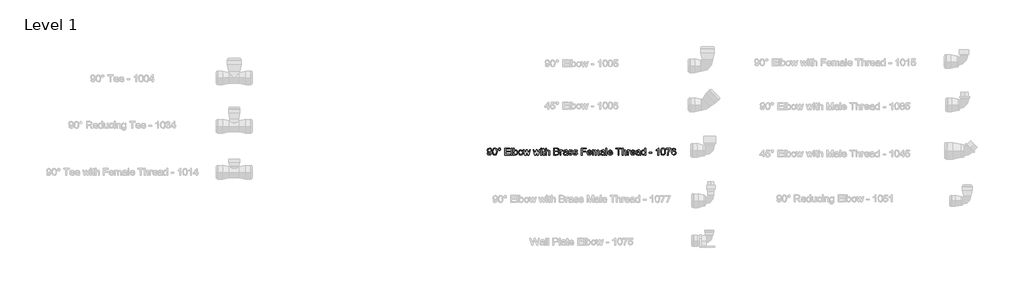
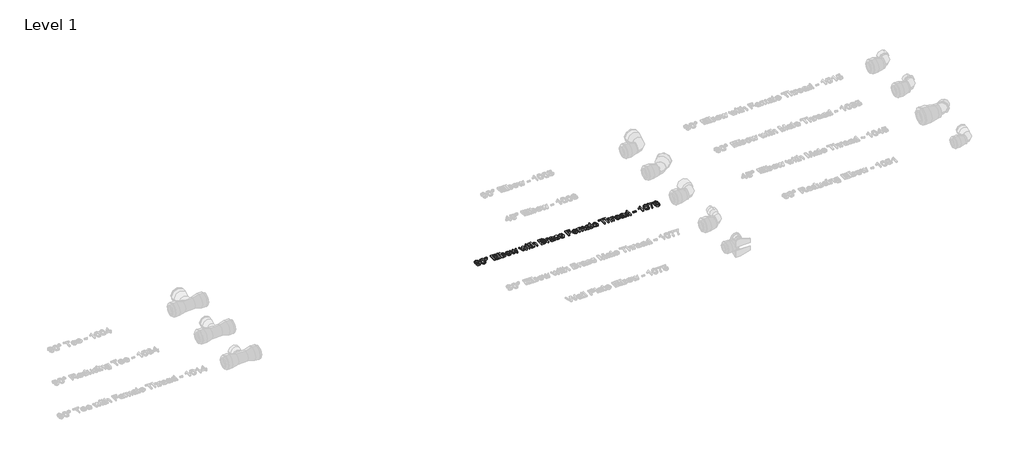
# One storey, part 4 of 13: 1 proxy.
"""IFC4 building model written with IfcOpenShell, lengths in millimetres."""

import ifcopenshell
import ifcopenshell.guid

model = None  # the IFC model being written
_history = None  # IfcOwnerHistory: only IFC2X3 demands one
_inside = {}  # id of a spatial element -> (the spatial element, [elements in it])
_under = {}  # id of a project, library or spatial element -> (it, [spatial elements below it])
_declared = {}  # id of a project -> (the project, [libraries it declares])
_typed = {}  # id of a type object -> (the type object, [elements of that type])
_made_of = {}  # id of a material, layer set ... -> (it, [elements and type objects made of it])


def new_model(schema):
    """Start an empty IFC model of exactly this schema.

    Asked for "IFC4X3", IfcOpenShell would pick the latest addendum, in which some entities
    have other attributes; the version numbers below select the first issue.
    IFC2X3 requires an IfcOwnerHistory on every rooted entity: one is made here for all.
    """
    global model, _history
    if schema == "IFC4X3":
        model = ifcopenshell.file(schema_version=(4, 3, 0, 0))
    else:
        model = ifcopenshell.file(schema=schema)
    _inside.clear()
    _under.clear()
    _declared.clear()
    _typed.clear()
    _made_of.clear()
    _history = None
    if model.schema == "IFC2X3":
        org = make("IfcOrganization", Name="unknown")
        user = make(
            "IfcPersonAndOrganization",
            ThePerson=make("IfcPerson", FamilyName="unknown"),
            TheOrganization=org,
        )
        app = make(
            "IfcApplication",
            ApplicationDeveloper=org,
            Version="unknown",
            ApplicationFullName="unknown",
            ApplicationIdentifier="unknown",
        )
        _history = make(
            "IfcOwnerHistory",
            OwningUser=user,
            OwningApplication=app,
            ChangeAction="ADDED",
            CreationDate=0,
        )
    return model


def make(cls, **values):
    """One entity of the class cls with the attributes given. An attribute that is None is left unset."""
    return model.create_entity(
        cls, **{name: value for name, value in values.items() if value is not None}
    )


def rooted(cls, **values):
    """An entity with a GlobalId (a new one), such as an element, a storey or a relation."""
    return make(cls, GlobalId=ifcopenshell.guid.new(), OwnerHistory=_history, **values)


def si_unit(unit_type, name, prefix=None):
    """IfcSIUnit, for example si_unit("LENGTHUNIT", "METRE", prefix="MILLI")."""
    return make("IfcSIUnit", UnitType=unit_type, Prefix=prefix, Name=name)


def assignment(units):
    """IfcUnitAssignment: the units of a project."""
    return None if units is None else make("IfcUnitAssignment", Units=units)


def point(xyz):
    """IfcCartesianPoint."""
    return None if xyz is None else make("IfcCartesianPoint", Coordinates=xyz)


def direction(xyz):
    """IfcDirection."""
    return None if xyz is None else make("IfcDirection", DirectionRatios=xyz)


def frame(location, z_axis=None, x_axis=None):
    """IfcAxis2Placement3D, a coordinate frame: its origin and axes. An axis left out is left unset."""
    return make(
        "IfcAxis2Placement3D",
        Location=point(location),
        Axis=direction(z_axis),
        RefDirection=direction(x_axis),
    )


def origin():
    """The frame at (0, 0, 0) with its axes left unset."""
    return frame((0.0, 0.0, 0.0))


def origin_with_axes():
    """The frame at (0, 0, 0) with the z axis (0, 0, 1) and the x axis (1, 0, 0) written out."""
    return frame((0.0, 0.0, 0.0), z_axis=(0.0, 0.0, 1.0), x_axis=(1.0, 0.0, 0.0))


def place(relative_to, where):
    """IfcLocalPlacement: puts the frame where relative to a parent placement (None: the world)."""
    return make(
        "IfcLocalPlacement", PlacementRelTo=relative_to, RelativePlacement=where
    )


def context(
    kind, dimensions, precision=None, world=None, true_north=None, identifier=None
):
    """IfcGeometricRepresentationContext, for example the 3D "Model" context."""
    return make(
        "IfcGeometricRepresentationContext",
        ContextIdentifier=identifier,
        ContextType=kind,
        CoordinateSpaceDimension=dimensions,
        Precision=precision,
        WorldCoordinateSystem=world,
        TrueNorth=true_north,
    )


def project(units=None, contexts=None):
    """IfcProject with its units and contexts."""
    return rooted(
        "IfcProject",
        Name="project",
        RepresentationContexts=contexts,
        UnitsInContext=assignment(units),
    )


def spatial(cls, under=None, at=None, **own):
    """A site, building, storey or space (cls), placed at a placement, below another one or the project."""
    s = rooted(cls, ObjectPlacement=at, **own)
    if under is not None:
        _under.setdefault(under.id(), (under, []))[1].append(s)
    return s


def polyline(points):
    """IfcPolyline through the points."""
    return make("IfcPolyline", Points=[point(p) for p in points])


def outline(outer, holes=None, kind="AREA"):
    """IfcArbitraryClosedProfileDef: a profile drawn as a closed curve; with holes, ...WithVoids."""
    if holes is None:
        return make("IfcArbitraryClosedProfileDef", ProfileType=kind, OuterCurve=outer)
    return make(
        "IfcArbitraryProfileDefWithVoids",
        ProfileType=kind,
        OuterCurve=outer,
        InnerCurves=holes,
    )


def extrude(swept, where, along, depth):
    """IfcExtrudedAreaSolid: the profile swept, set in the frame where, extruded along a direction by depth."""
    return make(
        "IfcExtrudedAreaSolid",
        SweptArea=swept,
        Position=where,
        ExtrudedDirection=direction(along),
        Depth=depth,
    )


def shape(context_of_items, identifier, shape_type, items):
    """IfcShapeRepresentation: the items that make up one representation, for example the "Body"."""
    return make(
        "IfcShapeRepresentation",
        ContextOfItems=context_of_items,
        RepresentationIdentifier=identifier,
        RepresentationType=shape_type,
        Items=items,
    )


def made_of(thing, what):
    """Note that an element or type object is made of a material, layer set ...; save() writes the relation."""
    if what is not None:
        _made_of.setdefault(what.id(), (what, []))[1].append(thing)
    return thing


def element(
    cls,
    number,
    at=None,
    inside=None,
    cuts=None,
    type_object=None,
    material=None,
    context=None,
    identifier="Body",
    shape_type=None,
    held_by="IfcProductDefinitionShape",
    body=None,
    shapes=None,
    **own,
):
    """One element of the class cls, such as IfcWall. Its Tag is "e" and its number.

    at: its placement. inside: the storey or other place that contains it. cuts: it is an
    opening in that element (IfcRelVoidsElement). A single representation is given by context,
    identifier, shape_type and body (its items); several are given by shapes. held_by: the class
    of the entity that holds the representations. save() writes the other relations.
    """
    e = rooted(cls, Tag="e%d" % number, ObjectPlacement=at, **own)
    if body is not None:
        shapes = [shape(context, identifier, shape_type, body)]
    if shapes is not None:
        e.Representation = make(held_by, Representations=shapes)
    if inside is not None:
        _inside.setdefault(inside.id(), (inside, []))[1].append(e)
    if cuts is not None:
        rooted(
            "IfcRelVoidsElement", RelatingBuildingElement=cuts, RelatedOpeningElement=e
        )
    if type_object is not None:
        _typed.setdefault(type_object.id(), (type_object, []))[1].append(e)
    return made_of(e, material)


def aggregate(whole, parts):
    """IfcRelAggregates: a whole, such as a stair, and the parts it consists of."""
    return rooted("IfcRelAggregates", RelatingObject=whole, RelatedObjects=parts)


def save(model, path):
    """Write the relations noted so far, then the file.

    IfcRelAggregates (storeys below a building ...), IfcRelContainedInSpatialStructure (elements
    in a storey), IfcRelDefinesByType, IfcRelAssociatesMaterial and IfcRelDeclares: one each for
    every whole, place, type object, material and project.
    """
    for whole, parts in _under.values():
        aggregate(whole, parts)
    for where, things in _inside.values():
        rooted(
            "IfcRelContainedInSpatialStructure",
            RelatedElements=things,
            RelatingStructure=where,
        )
    for kind, things in _typed.values():
        rooted("IfcRelDefinesByType", RelatedObjects=things, RelatingType=kind)
    for what, things in _made_of.values():
        rooted("IfcRelAssociatesMaterial", RelatedObjects=things, RelatingMaterial=what)
    for by, libraries in _declared.values():
        rooted("IfcRelDeclares", RelatingContext=by, RelatedDefinitions=libraries)
    model.write(path)


model = new_model("IFC4")

# Units and contexts
model_context = context("Model", 3, world=origin())
ifc_project = project(units=[si_unit("LENGTHUNIT", "METRE", prefix="MILLI")], contexts=[model_context])

# Site, building, storey
site = spatial("IfcSite", under=ifc_project)
building = spatial("IfcBuilding", under=site)
storey = spatial("IfcBuildingStorey", under=building, Name="Level 1", Elevation=0.0)

# Proxy
placement = place(None, origin())
element("IfcBuildingElementProxy", 1, Name="30 mm Arial", ObjectType="30 mm Arial", at=placement, inside=storey, context=model_context, shape_type="SweptSolid", body=[
    extrude(outline(polyline([(11935.0270244, 4538.3487189), (11938.7193321, 4538.8102573), (11940.377986, 4535.2874208), (11943.5222167, 4534.1948727), (11946.5113994, 4534.8979977), (11948.5378417, 4536.7766035), (11949.7457744, 4539.9857381), (11950.2794283, 4544.269392), (11947.3046686, 4542.1924689), (11943.2553898, 4541.1179496), (11937.0859186, 4543.7429496), (11934.565486, 4550.658815), (11937.2085148, 4557.7982381), (11943.8323129, 4560.502565), (11949.0931302, 4558.9592958), (11952.7133225, 4554.5602573), (11953.9501013, 4546.2958343), (11952.7169283, 4537.3282862), (11949.049861, 4532.2477573), (11943.3491398, 4530.502565), (11937.673659, 4532.5614593), (11935.0270244, 4538.3487189)]), holes=[polyline([(11950.2577936, 4550.7453535), (11948.6640436, 4555.1732381), (11944.4308706, 4556.8102573), (11939.9885629, 4555.0470362), (11938.2577936, 4550.4785266), (11939.8948129, 4546.3859785), (11944.329909, 4544.8102573), (11948.5883225, 4546.3859785), (11950.2577936, 4550.7453535)])]), origin_with_axes(), (0.0, 0.0, 1.0), 5.0),
    extrude(outline(polyline([(11957.1808706, 4545.4953535), (11958.2662071, 4553.9941516), (11961.4897648, 4558.894392), (11966.8731783, 4560.502565), (11971.1856783, 4559.550642), (11974.1640436, 4556.8066516), (11975.8948129, 4552.4364593), (11976.565486, 4545.4953535), (11975.4909667, 4537.0326131), (11972.2782263, 4532.1215554), (11966.8731783, 4530.502565), (11960.1231783, 4533.315065), (11957.1808706, 4545.4953535)]), holes=[polyline([(11960.8731783, 4545.502565), (11962.6039475, 4536.3330939), (11966.8731783, 4534.1948727), (11971.142409, 4536.3403054), (11972.8731783, 4545.502565), (11971.2001013, 4554.5674689), (11966.829909, 4556.8102573), (11962.6616398, 4554.8342958), (11960.8731783, 4545.502565)])]), origin_with_axes(), (0.0, 0.0, 1.0), 5.0),
    extrude(outline(polyline([(11980.7193321, 4555.4328535), (11982.345534, 4559.3487189), (11986.2505821, 4560.9641035), (11990.1808706, 4559.3487189), (11991.7962552, 4555.4328535), (11990.1700533, 4551.5133823), (11986.2505821, 4549.8871804), (11982.345534, 4551.502565), (11980.7193321, 4555.4328535)]), holes=[polyline([(11983.0270244, 4555.425642), (11983.9753417, 4553.1395843), (11986.2650052, 4552.1948727), (11988.5402456, 4553.1395843), (11989.4885629, 4555.425642), (11988.5402456, 4557.7116996), (11986.2650052, 4558.6564112), (11983.9753417, 4557.7116996), (11983.0270244, 4555.425642)])]), origin_with_axes(), (0.0, 0.0, 1.0), 5.0),
    extrude(outline(polyline([(12009.3347167, 4530.9641035), (12009.3347167, 4560.502565), (12030.565486, 4560.502565), (12030.565486, 4556.8102573), (12013.0270244, 4556.8102573), (12013.0270244, 4548.0410266), (12029.642409, 4548.0410266), (12029.642409, 4544.3487189), (12013.0270244, 4544.3487189), (12013.0270244, 4534.6564112), (12031.0270244, 4534.6564112), (12031.0270244, 4530.9641035), (12009.3347167, 4530.9641035)])), origin_with_axes(), (0.0, 0.0, 1.0), 5.0),
    extrude(outline(polyline([(12036.1039475, 4530.9641035), (12036.1039475, 4560.502565), (12039.7962552, 4560.502565), (12039.7962552, 4530.9641035), (12036.1039475, 4530.9641035)])), origin_with_axes(), (0.0, 0.0, 1.0), 5.0),
    extrude(outline(polyline([(12049.0270244, 4530.9641035), (12045.3347167, 4530.9641035), (12045.3347167, 4560.502565), (12049.0270244, 4560.502565), (12049.0270244, 4549.5482381), (12054.8251013, 4553.1179496), (12058.5246206, 4552.3138631), (12061.3948129, 4550.0530458), (12063.158034, 4546.5374208), (12063.7962552, 4542.1347766), (12061.1532263, 4533.5386227), (12054.8034667, 4530.502565), (12049.0270244, 4534.4184304), (12049.0270244, 4530.9641035)]), holes=[polyline([(12049.0270244, 4541.9616996), (12050.0366398, 4536.7982381), (12054.486159, 4534.1948727), (12058.4380821, 4536.113142), (12060.1039475, 4541.831892), (12058.5065917, 4547.5722766), (12054.6448129, 4549.425642), (12050.6928898, 4547.5073727), (12049.0270244, 4541.9616996)])]), origin_with_axes(), (0.0, 0.0, 1.0), 5.0),
    extrude(outline(polyline([(12067.0270244, 4541.8102573), (12070.221736, 4550.7165073), (12076.7265436, 4553.1179496), (12083.7037071, 4550.1936708), (12086.4116398, 4542.113142), (12085.2145244, 4535.5434304), (12081.7277456, 4531.8258823), (12076.7265436, 4530.502565), (12069.706111, 4533.4160266), (12067.0270244, 4541.8102573)]), holes=[polyline([(12070.7193321, 4541.8174689), (12072.4284667, 4536.0951131), (12076.7265436, 4534.1948727), (12081.0101975, 4536.1059304), (12082.7193321, 4541.9328535), (12080.9993802, 4547.5254016), (12076.7265436, 4549.425642), (12072.4284667, 4547.5326131), (12070.7193321, 4541.8174689)])]), origin_with_axes(), (0.0, 0.0, 1.0), 5.0),
    extrude(outline(polyline([(12094.1640436, 4530.9641035), (12087.565486, 4552.6564112), (12091.4020244, 4552.6564112), (12095.1448129, 4540.0001612), (12096.2626013, 4535.4785266), (12097.1784667, 4539.8342958), (12100.1568321, 4552.6564112), (12104.5558706, 4552.6564112), (12107.5198129, 4539.8703535), (12108.3347167, 4535.925642), (12109.502986, 4540.0866996), (12113.252986, 4552.6564112), (12117.1039475, 4552.6564112), (12110.454909, 4530.9641035), (12105.9909667, 4530.9641035), (12103.1568321, 4543.6852573), (12102.3347167, 4547.6516035), (12098.6784667, 4530.9641035), (12094.1640436, 4530.9641035)])), origin_with_axes(), (0.0, 0.0, 1.0), 5.0),
    extrude(outline(polyline([(12134.7794283, 4530.9641035), (12128.1808706, 4552.6564112), (12132.017409, 4552.6564112), (12135.7601975, 4540.0001612), (12136.877986, 4535.4785266), (12137.7938513, 4539.8342958), (12140.7722167, 4552.6564112), (12145.1712552, 4552.6564112), (12148.1351975, 4539.8703535), (12148.9501013, 4535.925642), (12150.1183706, 4540.0866996), (12153.8683706, 4552.6564112), (12157.7193321, 4552.6564112), (12151.0702936, 4530.9641035), (12146.6063513, 4530.9641035), (12143.7722167, 4543.6852573), (12142.9501013, 4547.6516035), (12139.2938513, 4530.9641035), (12134.7794283, 4530.9641035)])), origin_with_axes(), (0.0, 0.0, 1.0), 5.0),
    extrude(outline(polyline([(12160.2577936, 4556.8102573), (12160.2577936, 4560.502565), (12163.9501013, 4560.502565), (12163.9501013, 4556.8102573), (12160.2577936, 4556.8102573)])), origin_with_axes(), (0.0, 0.0, 1.0), 5.0),
    extrude(outline(polyline([(12160.2577936, 4530.9641035), (12160.2577936, 4552.6564112), (12163.9501013, 4552.6564112), (12163.9501013, 4530.9641035), (12160.2577936, 4530.9641035)])), origin_with_axes(), (0.0, 0.0, 1.0), 5.0),
    extrude(outline(polyline([(12177.3347167, 4534.0434304), (12177.7962552, 4530.8559304), (12175.034236, 4530.502565), (12171.940486, 4531.1155458), (12170.3972167, 4532.7237189), (12169.9501013, 4536.9136227), (12169.9501013, 4548.9641035), (12167.1808706, 4548.9641035), (12167.1808706, 4552.6564112), (12169.9501013, 4552.6564112), (12169.9501013, 4557.9280458), (12173.642409, 4560.0987189), (12173.642409, 4552.6564112), (12177.3347167, 4552.6564112), (12177.3347167, 4548.9641035), (12173.642409, 4548.9641035), (12173.642409, 4537.0217958), (12173.8371206, 4535.1179496), (12177.3347167, 4534.0434304)])), origin_with_axes(), (0.0, 0.0, 1.0), 5.0),
    extrude(outline(polyline([(12181.0270244, 4530.9641035), (12181.0270244, 4560.502565), (12184.7193321, 4560.502565), (12184.7193321, 4549.6419881), (12191.1448129, 4553.1179496), (12195.2914475, 4552.1696323), (12197.8082744, 4549.5482381), (12198.565486, 4544.6948727), (12198.565486, 4530.9641035), (12194.8731783, 4530.9641035), (12194.8731783, 4544.3126612), (12193.6976975, 4548.206892), (12190.3659667, 4549.425642), (12187.3407263, 4548.6035266), (12185.3214956, 4546.3751612), (12184.7193321, 4542.488142), (12184.7193321, 4530.9641035), (12181.0270244, 4530.9641035)])), origin_with_axes(), (0.0, 0.0, 1.0), 5.0),
    extrude(outline(polyline([(12215.642409, 4530.9641035), (12215.642409, 4560.502565), (12226.9140436, 4560.502565), (12232.4344763, 4559.6335746), (12235.6940917, 4556.9616996), (12236.8731783, 4553.1828535), (12235.8815917, 4549.7321323), (12232.8851975, 4547.1179496), (12236.5234186, 4544.363142), (12237.7962552, 4539.769392), (12236.9272648, 4535.79944), (12234.7746206, 4532.972517), (12231.5618802, 4531.472517), (12226.8275052, 4530.9641035), (12215.642409, 4530.9641035)]), holes=[polyline([(12219.3347167, 4548.502565), (12226.0775052, 4548.502565), (12230.0150052, 4548.8198727), (12232.3839956, 4550.1864593), (12233.1808706, 4552.5915073), (12232.4380821, 4555.0001612), (12230.3106783, 4556.42444), (12225.565486, 4556.8102573), (12219.3347167, 4556.8102573), (12219.3347167, 4548.502565)]), polyline([(12219.3347167, 4534.6564112), (12226.9068321, 4534.6564112), (12229.6472167, 4534.800642), (12231.9657263, 4535.6047285), (12233.501784, 4537.2453535), (12234.1039475, 4539.7333343), (12233.3972167, 4542.6035266), (12231.1075533, 4544.316267), (12226.5462552, 4544.8102573), (12219.3347167, 4544.8102573), (12219.3347167, 4534.6564112)])]), origin_with_axes(), (0.0, 0.0, 1.0), 5.0),
    extrude(outline(polyline([(12242.4116398, 4530.9641035), (12242.4116398, 4552.6564112), (12245.642409, 4552.6564112), (12245.642409, 4549.4472766), (12247.9356783, 4552.4040073), (12250.2433706, 4553.1179496), (12253.9501013, 4551.9785266), (12252.7169283, 4548.6684304), (12250.1207744, 4549.425642), (12248.033034, 4548.6972766), (12246.7025052, 4546.6780458), (12246.1039475, 4542.3655458), (12246.1039475, 4530.9641035), (12242.4116398, 4530.9641035)])), origin_with_axes(), (0.0, 0.0, 1.0), 5.0),
    extrude(outline(polyline([(12270.1039475, 4533.7333343), (12266.5234186, 4531.2309304), (12262.5678898, 4530.502565), (12257.206111, 4532.2549689), (12255.3347167, 4536.7333343), (12256.0414475, 4539.6540073), (12257.8984186, 4541.7741996), (12260.4837552, 4542.9857381), (12263.6784667, 4543.5410266), (12270.0823129, 4544.8102573), (12269.0871206, 4548.3583343), (12265.0053898, 4549.425642), (12261.2698129, 4548.7153054), (12259.4885629, 4546.1948727), (12255.7962552, 4546.6564112), (12257.393611, 4550.2621804), (12260.6099571, 4552.3751612), (12265.4813513, 4553.1179496), (12269.956111, 4552.4616996), (12272.4837552, 4550.8138631), (12273.6159667, 4548.3078535), (12273.7962552, 4545.0770843), (12273.7962552, 4540.4833343), (12273.9837552, 4534.0686708), (12274.7193321, 4530.9641035), (12271.0270244, 4530.9641035), (12270.1039475, 4533.7333343)]), holes=[polyline([(12270.0931302, 4540.5951131), (12264.1472167, 4539.9857381), (12260.970534, 4539.3871804), (12259.5318321, 4538.4136227), (12260.126784, 4534.9953535), (12263.3539475, 4534.1948727), (12267.0895244, 4535.0782862), (12269.4981783, 4537.2165073), (12270.0931302, 4540.5951131)])]), origin_with_axes(), (0.0, 0.0, 1.0), 5.0),
    extrude(outline(polyline([(12277.4885629, 4537.425642), (12281.1808706, 4537.8871804), (12282.8900052, 4535.1467958), (12286.8058706, 4534.1948727), (12290.5702936, 4535.0674689), (12291.7962552, 4537.1155458), (12290.5630821, 4538.7741996), (12286.7626013, 4539.8270843), (12281.2025052, 4541.6335746), (12278.7758225, 4543.7429496), (12277.9501013, 4546.721315), (12278.6135629, 4549.472517), (12280.423659, 4551.5746804), (12282.7710148, 4552.6672285), (12285.9476975, 4553.1179496), (12290.440486, 4552.39319), (12293.2962552, 4550.4316516), (12294.565486, 4547.1179496), (12290.8731783, 4546.6564112), (12289.4849571, 4548.6936708), (12286.236159, 4549.425642), (12282.7025052, 4548.7261227), (12281.642409, 4547.096315), (12283.4597167, 4545.206892), (12286.6400052, 4544.4208343), (12292.0594763, 4542.6828535), (12294.5763033, 4540.7141035), (12295.4885629, 4537.5049689), (12294.4176494, 4533.971315), (12291.3275052, 4531.4076131), (12286.7553898, 4530.502565), (12280.315486, 4532.2477573), (12277.4885629, 4537.425642)])), origin_with_axes(), (0.0, 0.0, 1.0), 5.0),
    extrude(outline(polyline([(12298.2577936, 4537.425642), (12301.9501013, 4537.8871804), (12303.659236, 4535.1467958), (12307.5751013, 4534.1948727), (12311.3395244, 4535.0674689), (12312.565486, 4537.1155458), (12311.3323129, 4538.7741996), (12307.5318321, 4539.8270843), (12301.971736, 4541.6335746), (12299.5450533, 4543.7429496), (12298.7193321, 4546.721315), (12299.3827936, 4549.472517), (12301.1928898, 4551.5746804), (12303.5402456, 4552.6672285), (12306.7169283, 4553.1179496), (12311.2097167, 4552.39319), (12314.065486, 4550.4316516), (12315.3347167, 4547.1179496), (12311.642409, 4546.6564112), (12310.2541879, 4548.6936708), (12307.0053898, 4549.425642), (12303.471736, 4548.7261227), (12302.4116398, 4547.096315), (12304.2289475, 4545.206892), (12307.409236, 4544.4208343), (12312.8287071, 4542.6828535), (12315.345534, 4540.7141035), (12316.2577936, 4537.5049689), (12315.1868802, 4533.971315), (12312.096736, 4531.4076131), (12307.5246206, 4530.502565), (12301.0847167, 4532.2477573), (12298.2577936, 4537.425642)])), origin_with_axes(), (0.0, 0.0, 1.0), 5.0),
    extrude(outline(polyline([(12332.4116398, 4530.9641035), (12332.4116398, 4560.502565), (12352.2577936, 4560.502565), (12352.2577936, 4556.8102573), (12336.1039475, 4556.8102573), (12336.1039475, 4548.0410266), (12349.9501013, 4548.0410266), (12349.9501013, 4544.3487189), (12336.1039475, 4544.3487189), (12336.1039475, 4530.9641035), (12332.4116398, 4530.9641035)])), origin_with_axes(), (0.0, 0.0, 1.0), 5.0),
    extrude(outline(polyline([(12372.0606783, 4537.425642), (12375.6808706, 4536.9641035), (12372.2950533, 4532.1972766), (12365.9885629, 4530.502565), (12358.3226975, 4533.4268439), (12355.4885629, 4541.6299689), (12358.3515436, 4550.1035266), (12365.7794283, 4553.1179496), (12372.9945725, 4550.1107381), (12375.7962552, 4541.6516035), (12359.1808706, 4540.6564112), (12361.3046686, 4535.8607381), (12366.0606783, 4534.1948727), (12369.6808706, 4534.9665073), (12372.0606783, 4537.425642)]), holes=[polyline([(12359.1808706, 4544.3487189), (12372.1039475, 4544.3487189), (12370.6255821, 4547.6948727), (12365.7650052, 4549.425642), (12361.2181302, 4548.0446323), (12359.1808706, 4544.3487189)])]), origin_with_axes(), (0.0, 0.0, 1.0), 5.0),
    extrude(outline(polyline([(12379.4885629, 4530.9641035), (12379.4885629, 4552.6564112), (12383.1808706, 4552.6564112), (12383.1808706, 4549.0866996), (12385.7193321, 4552.0109785), (12389.3323129, 4553.1179496), (12393.0318321, 4551.9893439), (12395.065486, 4548.8270843), (12401.5847167, 4553.1179496), (12406.4128417, 4551.3330939), (12408.1039475, 4545.8342958), (12408.1039475, 4530.9641035), (12404.4116398, 4530.9641035), (12404.4116398, 4544.2477573), (12404.0690917, 4547.33069), (12402.8287071, 4548.8487189), (12400.7193321, 4549.425642), (12397.0883225, 4547.9472766), (12395.642409, 4543.2092958), (12395.642409, 4530.9641035), (12391.9501013, 4530.9641035), (12391.9501013, 4544.658815), (12391.095534, 4548.2357381), (12388.2938513, 4549.425642), (12385.5606783, 4548.6323727), (12383.7433706, 4546.3102573), (12383.1808706, 4541.9040073), (12383.1808706, 4530.9641035), (12379.4885629, 4530.9641035)])), origin_with_axes(), (0.0, 0.0, 1.0), 5.0),
    extrude(outline(polyline([(12427.4885629, 4533.7333343), (12423.908034, 4531.2309304), (12419.9525052, 4530.502565), (12414.5907263, 4532.2549689), (12412.7193321, 4536.7333343), (12413.4260629, 4539.6540073), (12415.283034, 4541.7741996), (12417.8683706, 4542.9857381), (12421.0630821, 4543.5410266), (12427.4669283, 4544.8102573), (12426.471736, 4548.3583343), (12422.3900052, 4549.425642), (12418.6544283, 4548.7153054), (12416.8731783, 4546.1948727), (12413.1808706, 4546.6564112), (12414.7782263, 4550.2621804), (12417.9945725, 4552.3751612), (12422.8659667, 4553.1179496), (12427.3407263, 4552.4616996), (12429.8683706, 4550.8138631), (12431.0005821, 4548.3078535), (12431.1808706, 4545.0770843), (12431.1808706, 4540.4833343), (12431.3683706, 4534.0686708), (12432.1039475, 4530.9641035), (12428.4116398, 4530.9641035), (12427.4885629, 4533.7333343)]), holes=[polyline([(12427.4777456, 4540.5951131), (12421.5318321, 4539.9857381), (12418.3551494, 4539.3871804), (12416.9164475, 4538.4136227), (12417.5113994, 4534.9953535), (12420.7385629, 4534.1948727), (12424.4741398, 4535.0782862), (12426.8827936, 4537.2165073), (12427.4777456, 4540.5951131)])]), origin_with_axes(), (0.0, 0.0, 1.0), 5.0),
    extrude(outline(polyline([(12436.2577936, 4530.9641035), (12436.2577936, 4560.502565), (12439.9501013, 4560.502565), (12439.9501013, 4530.9641035), (12436.2577936, 4530.9641035)])), origin_with_axes(), (0.0, 0.0, 1.0), 5.0),
    extrude(outline(polyline([(12460.6760629, 4537.425642), (12464.2962552, 4536.9641035), (12460.9104379, 4532.1972766), (12454.6039475, 4530.502565), (12446.9380821, 4533.4268439), (12444.1039475, 4541.6299689), (12446.9669283, 4550.1035266), (12454.3948129, 4553.1179496), (12461.6099571, 4550.1107381), (12464.4116398, 4541.6516035), (12447.7962552, 4540.6564112), (12449.9200533, 4535.8607381), (12454.6760629, 4534.1948727), (12458.2962552, 4534.9665073), (12460.6760629, 4537.425642)]), holes=[polyline([(12447.7962552, 4544.3487189), (12460.7193321, 4544.3487189), (12459.2409667, 4547.6948727), (12454.3803898, 4549.425642), (12449.8335148, 4548.0446323), (12447.7962552, 4544.3487189)])]), origin_with_axes(), (0.0, 0.0, 1.0), 5.0),
    extrude(outline(polyline([(12487.4885629, 4530.9641035), (12487.4885629, 4556.8102573), (12477.7962552, 4556.8102573), (12477.7962552, 4560.502565), (12500.8731783, 4560.502565), (12500.8731783, 4556.8102573), (12491.1808706, 4556.8102573), (12491.1808706, 4530.9641035), (12487.4885629, 4530.9641035)])), origin_with_axes(), (0.0, 0.0, 1.0), 5.0),
    extrude(outline(polyline([(12504.565486, 4530.9641035), (12504.565486, 4560.502565), (12508.2577936, 4560.502565), (12508.2577936, 4549.6419881), (12514.6832744, 4553.1179496), (12518.829909, 4552.1696323), (12521.346736, 4549.5482381), (12522.1039475, 4544.6948727), (12522.1039475, 4530.9641035), (12518.4116398, 4530.9641035), (12518.4116398, 4544.3126612), (12517.236159, 4548.206892), (12513.9044283, 4549.425642), (12510.8791879, 4548.6035266), (12508.8599571, 4546.3751612), (12508.2577936, 4542.488142), (12508.2577936, 4530.9641035), (12504.565486, 4530.9641035)])), origin_with_axes(), (0.0, 0.0, 1.0), 5.0),
    extrude(outline(polyline([(12527.1808706, 4530.9641035), (12527.1808706, 4552.6564112), (12530.4116398, 4552.6564112), (12530.4116398, 4549.4472766), (12532.704909, 4552.4040073), (12535.0126013, 4553.1179496), (12538.7193321, 4551.9785266), (12537.486159, 4548.6684304), (12534.8900052, 4549.425642), (12532.8022648, 4548.6972766), (12531.471736, 4546.6780458), (12530.8731783, 4542.3655458), (12530.8731783, 4530.9641035), (12527.1808706, 4530.9641035)])), origin_with_axes(), (0.0, 0.0, 1.0), 5.0),
    extrude(outline(polyline([(12556.2145244, 4537.425642), (12559.8347167, 4536.9641035), (12556.4488994, 4532.1972766), (12550.142409, 4530.502565), (12542.4765436, 4533.4268439), (12539.642409, 4541.6299689), (12542.5053898, 4550.1035266), (12549.9332744, 4553.1179496), (12557.1484186, 4550.1107381), (12559.9501013, 4541.6516035), (12543.3347167, 4540.6564112), (12545.4585148, 4535.8607381), (12550.2145244, 4534.1948727), (12553.8347167, 4534.9665073), (12556.2145244, 4537.425642)]), holes=[polyline([(12543.3347167, 4544.3487189), (12556.2577936, 4544.3487189), (12554.7794283, 4547.6948727), (12549.9188513, 4549.425642), (12545.3719763, 4548.0446323), (12543.3347167, 4544.3487189)])]), origin_with_axes(), (0.0, 0.0, 1.0), 5.0),
    extrude(outline(polyline([(12577.4885629, 4533.7333343), (12573.908034, 4531.2309304), (12569.9525052, 4530.502565), (12564.5907263, 4532.2549689), (12562.7193321, 4536.7333343), (12563.4260629, 4539.6540073), (12565.283034, 4541.7741996), (12567.8683706, 4542.9857381), (12571.0630821, 4543.5410266), (12577.4669283, 4544.8102573), (12576.471736, 4548.3583343), (12572.3900052, 4549.425642), (12568.6544283, 4548.7153054), (12566.8731783, 4546.1948727), (12563.1808706, 4546.6564112), (12564.7782263, 4550.2621804), (12567.9945725, 4552.3751612), (12572.8659667, 4553.1179496), (12577.3407263, 4552.4616996), (12579.8683706, 4550.8138631), (12581.0005821, 4548.3078535), (12581.1808706, 4545.0770843), (12581.1808706, 4540.4833343), (12581.3683706, 4534.0686708), (12582.1039475, 4530.9641035), (12578.4116398, 4530.9641035), (12577.4885629, 4533.7333343)]), holes=[polyline([(12577.4777456, 4540.5951131), (12571.5318321, 4539.9857381), (12568.3551494, 4539.3871804), (12566.9164475, 4538.4136227), (12567.5113994, 4534.9953535), (12570.7385629, 4534.1948727), (12574.4741398, 4535.0782862), (12576.8827936, 4537.2165073), (12577.4777456, 4540.5951131)])]), origin_with_axes(), (0.0, 0.0, 1.0), 5.0),
    extrude(outline(polyline([(12599.642409, 4530.9641035), (12599.642409, 4534.4472766), (12593.8226975, 4530.502565), (12589.2505821, 4531.9304496), (12586.0198129, 4535.9148246), (12584.8731783, 4541.7886227), (12585.9296686, 4547.6660266), (12589.095534, 4551.7116996), (12593.8082744, 4553.1179496), (12597.2121206, 4552.11194), (12599.642409, 4549.4977573), (12599.642409, 4560.502565), (12603.3347167, 4560.502565), (12603.3347167, 4530.9641035), (12599.642409, 4530.9641035)]), holes=[polyline([(12588.565486, 4541.8030458), (12590.2313513, 4536.0879016), (12594.1616398, 4534.1948727), (12598.0450533, 4536.0013631), (12599.642409, 4541.5217958), (12598.0162071, 4547.5145843), (12594.0101975, 4549.425642), (12590.1231783, 4547.5903054), (12588.565486, 4541.8030458)])]), origin_with_axes(), (0.0, 0.0, 1.0), 5.0),
    extrude(outline(polyline([(12618.565486, 4539.7333343), (12618.565486, 4543.425642), (12630.1039475, 4543.425642), (12630.1039475, 4539.7333343), (12618.565486, 4539.7333343)])), origin_with_axes(), (0.0, 0.0, 1.0), 5.0),
    extrude(outline(polyline([(12658.7193321, 4530.9641035), (12655.0270244, 4530.9641035), (12655.0270244, 4553.9833343), (12651.5294283, 4551.4917477), (12647.642409, 4549.627565), (12647.642409, 4553.1179496), (12653.0546686, 4556.5722766), (12656.3395244, 4560.502565), (12658.7193321, 4560.502565), (12658.7193321, 4530.9641035)])), origin_with_axes(), (0.0, 0.0, 1.0), 5.0),
    extrude(outline(polyline([(12667.4885629, 4545.4953535), (12668.5738994, 4553.9941516), (12671.7974571, 4558.894392), (12677.1808706, 4560.502565), (12681.4933706, 4559.550642), (12684.471736, 4556.8066516), (12686.2025052, 4552.4364593), (12686.8731783, 4545.4953535), (12685.798659, 4537.0326131), (12682.5859186, 4532.1215554), (12677.1808706, 4530.502565), (12670.4308706, 4533.315065), (12667.4885629, 4545.4953535)]), holes=[polyline([(12671.1808706, 4545.502565), (12672.9116398, 4536.3330939), (12677.1808706, 4534.1948727), (12681.4501013, 4536.3403054), (12683.1808706, 4545.502565), (12681.5077936, 4554.5674689), (12677.1376013, 4556.8102573), (12672.9693321, 4554.8342958), (12671.1808706, 4545.502565)])]), origin_with_axes(), (0.0, 0.0, 1.0), 5.0),
    extrude(outline(polyline([(12690.1039475, 4556.3487189), (12690.1039475, 4560.0410266), (12709.4885629, 4560.0410266), (12709.4885629, 4557.0554496), (12703.9897648, 4549.11194), (12699.7818321, 4538.9905458), (12698.4116398, 4530.9641035), (12694.7193321, 4530.9641035), (12696.1868802, 4539.2934304), (12700.2145244, 4548.7080939), (12705.7962552, 4556.3487189), (12690.1039475, 4556.3487189)])), origin_with_axes(), (0.0, 0.0, 1.0), 5.0),
    extrude(outline(polyline([(12731.642409, 4552.6564112), (12727.9501013, 4552.1948727), (12726.5510629, 4555.2741996), (12722.8515436, 4556.8102573), (12719.5198129, 4555.9160266), (12716.9993802, 4552.5590554), (12715.9501013, 4545.9785266), (12719.206111, 4548.92444), (12723.2409667, 4549.8871804), (12729.5150052, 4547.2549689), (12732.1039475, 4540.4544881), (12730.8851975, 4535.3595362), (12727.5318321, 4531.753767), (12722.6928898, 4530.502565), (12715.1676494, 4533.8198727), (12712.2577936, 4544.752565), (12715.4885629, 4557.1347766), (12723.0823129, 4560.502565), (12728.9164475, 4558.4184304), (12731.642409, 4552.6564112)]), holes=[polyline([(12715.9501013, 4540.5121804), (12716.8046686, 4537.3138631), (12719.0763033, 4534.9917477), (12722.4044283, 4534.1948727), (12726.7565917, 4535.846315), (12728.4116398, 4540.331892), (12726.7782263, 4544.6263631), (12722.252986, 4546.1948727), (12717.7854379, 4544.6263631), (12715.9501013, 4540.5121804)])]), origin_with_axes(), (0.0, 0.0, 1.0), 5.0),
])

save(model, "model.ifc")
